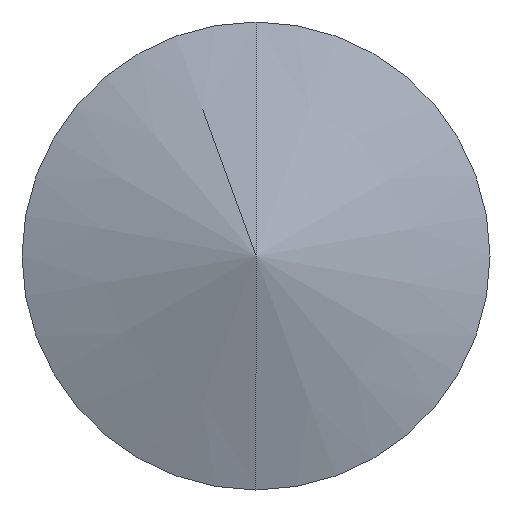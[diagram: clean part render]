
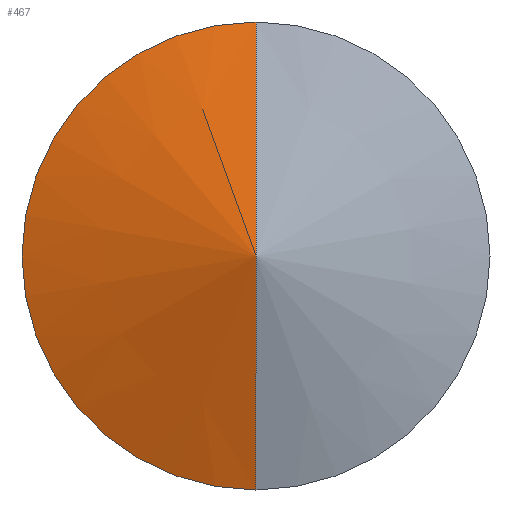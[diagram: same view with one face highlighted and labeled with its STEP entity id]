
A CAD part, left-side view. The second image highlights one B-rep face of the part: STEP entity #467.
In plain terms, the highlighted conical face has half-angle 72 degrees and reference radius 11.5 mm.
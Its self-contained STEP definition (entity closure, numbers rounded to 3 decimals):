
#5 = DIRECTION ( 'NONE',  ( 0., 0., -1. ) ) ;
#26 = DIRECTION ( 'NONE',  ( 1., 0., 0. ) ) ;
#31 = CARTESIAN_POINT ( 'NONE',  ( 0., 0., 0. ) ) ;
#50 = CARTESIAN_POINT ( 'NONE',  ( 0., 0., -11.5 ) ) ;
#69 = FACE_OUTER_BOUND ( 'NONE', #289, .T. ) ;
#100 = DIRECTION ( 'NONE',  ( 0., 0., 1. ) ) ;
#121 = CARTESIAN_POINT ( 'NONE',  ( 0., 0., 11.5 ) ) ;
#136 = VERTEX_POINT ( 'NONE', #452 ) ;
#140 = VERTEX_POINT ( 'NONE', #479 ) ;
#160 = CONICAL_SURFACE ( 'NONE', #442, 11.5, 1.257 ) ;
#164 = DIRECTION ( 'NONE',  ( 0.309, 0., 0.951 ) ) ;
#188 = VECTOR ( 'NONE', #164, 1000. ) ;
#200 = VECTOR ( 'NONE', #413, 1000. ) ;
#228 = ORIENTED_EDGE ( 'NONE', *, *, #431, .T. ) ;
#230 = ORIENTED_EDGE ( 'NONE', *, *, #445, .T. ) ;
#242 = CIRCLE ( 'NONE', #324, 11.5 ) ;
#245 = CARTESIAN_POINT ( 'NONE',  ( 0., 0., 11.5 ) ) ;
#289 = EDGE_LOOP ( 'NONE', ( #353, #228, #230 ) ) ;
#324 = AXIS2_PLACEMENT_3D ( 'NONE', #370, #476, #100 ) ;
#346 = LINE ( 'NONE', #245, #188 ) ;
#353 = ORIENTED_EDGE ( 'NONE', *, *, #482, .F. ) ;
#365 = LINE ( 'NONE', #50, #200 ) ;
#370 = CARTESIAN_POINT ( 'NONE',  ( 0., 0., 0. ) ) ;
#413 = DIRECTION ( 'NONE',  ( 0.309, 0., -0.951 ) ) ;
#431 = EDGE_CURVE ( 'NONE', #136, #449, #346, .T. ) ;
#442 = AXIS2_PLACEMENT_3D ( 'NONE', #31, #26, #5 ) ;
#445 = EDGE_CURVE ( 'NONE', #449, #140, #242, .T. ) ;
#449 = VERTEX_POINT ( 'NONE', #121 ) ;
#452 = CARTESIAN_POINT ( 'NONE',  ( -3.737, 0., 0. ) ) ;
#467 = ADVANCED_FACE ( 'NONE', ( #69 ), #160, .T. ) ;
#476 = DIRECTION ( 'NONE',  ( -1., 0., 0. ) ) ;
#479 = CARTESIAN_POINT ( 'NONE',  ( 0., 0., -11.5 ) ) ;
#482 = EDGE_CURVE ( 'NONE', #136, #140, #365, .T. ) ;
